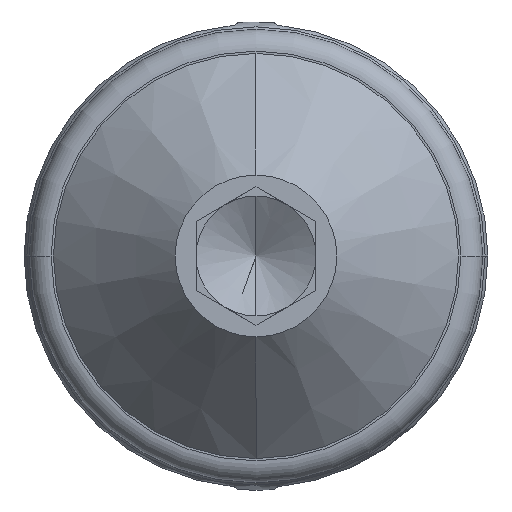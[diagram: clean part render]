
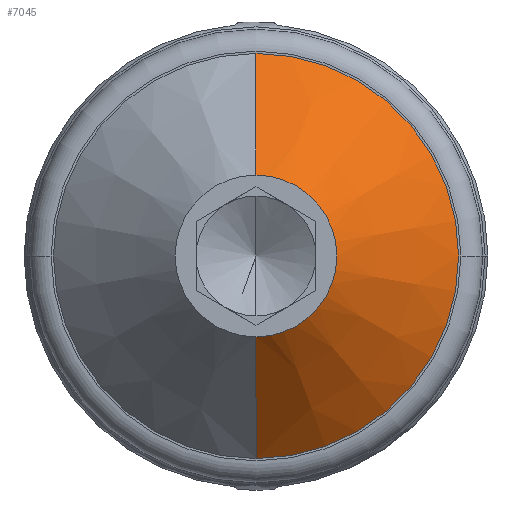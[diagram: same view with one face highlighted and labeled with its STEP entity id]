
A CAD part, front view. The second image highlights one B-rep face of the part: STEP entity #7045.
In plain terms, the highlighted conical face has half-angle 45 degrees and reference radius 13.845 mm.
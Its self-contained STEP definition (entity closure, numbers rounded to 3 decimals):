
#159 = CARTESIAN_POINT ( 'NONE',  ( 0., 0., 5.527 ) ) ;
#446 = DIRECTION ( 'NONE',  ( 0., 0.707, 0.707 ) ) ;
#725 = AXIS2_PLACEMENT_3D ( 'NONE', #1727, #3099, #7289 ) ;
#728 = DIRECTION ( 'NONE',  ( 0., 0., 1. ) ) ;
#857 = CONICAL_SURFACE ( 'NONE', #6256, 13.845, 0.785 ) ;
#935 = LINE ( 'NONE', #3353, #9050 ) ;
#1299 = FACE_OUTER_BOUND ( 'NONE', #6125, .T. ) ;
#1576 = DIRECTION ( 'NONE',  ( 0., 0., 1. ) ) ;
#1652 = ORIENTED_EDGE ( 'NONE', *, *, #6098, .T. ) ;
#1727 = CARTESIAN_POINT ( 'NONE',  ( 0., 8.319, 0. ) ) ;
#2111 = CARTESIAN_POINT ( 'NONE',  ( 0., 0., -5.527 ) ) ;
#2172 = CARTESIAN_POINT ( 'NONE',  ( 0., 8.319, 0. ) ) ;
#2875 = CARTESIAN_POINT ( 'NONE',  ( 0., 8.319, 13.845 ) ) ;
#3099 = DIRECTION ( 'NONE',  ( 0., 1., 0. ) ) ;
#3353 = CARTESIAN_POINT ( 'NONE',  ( 0., 8.319, 13.845 ) ) ;
#3404 = EDGE_CURVE ( 'NONE', #7860, #7866, #4881, .T. ) ;
#3726 = VERTEX_POINT ( 'NONE', #159 ) ;
#4115 = EDGE_CURVE ( 'NONE', #3726, #7860, #935, .T. ) ;
#4198 = VERTEX_POINT ( 'NONE', #2111 ) ;
#4371 = CIRCLE ( 'NONE', #5259, 5.527 ) ;
#4881 = CIRCLE ( 'NONE', #725, 13.845 ) ;
#4928 = ORIENTED_EDGE ( 'NONE', *, *, #4115, .F. ) ;
#5259 = AXIS2_PLACEMENT_3D ( 'NONE', #7817, #5648, #728 ) ;
#5509 = VECTOR ( 'NONE', #6750, 1000. ) ;
#5648 = DIRECTION ( 'NONE',  ( 0., 1., 0. ) ) ;
#6098 = EDGE_CURVE ( 'NONE', #4198, #7866, #8823, .T. ) ;
#6125 = EDGE_LOOP ( 'NONE', ( #6495, #1652, #7107, #4928 ) ) ;
#6212 = EDGE_CURVE ( 'NONE', #3726, #4198, #4371, .T. ) ;
#6256 = AXIS2_PLACEMENT_3D ( 'NONE', #2172, #7101, #1576 ) ;
#6495 = ORIENTED_EDGE ( 'NONE', *, *, #6212, .T. ) ;
#6750 = DIRECTION ( 'NONE',  ( 0., 0.707, -0.707 ) ) ;
#7045 = ADVANCED_FACE ( 'NONE', ( #1299 ), #857, .T. ) ;
#7101 = DIRECTION ( 'NONE',  ( 0., 1., 0. ) ) ;
#7107 = ORIENTED_EDGE ( 'NONE', *, *, #3404, .F. ) ;
#7289 = DIRECTION ( 'NONE',  ( 0., 0., 1. ) ) ;
#7817 = CARTESIAN_POINT ( 'NONE',  ( 0., 0., 0. ) ) ;
#7860 = VERTEX_POINT ( 'NONE', #2875 ) ;
#7866 = VERTEX_POINT ( 'NONE', #8468 ) ;
#8468 = CARTESIAN_POINT ( 'NONE',  ( 0., 8.319, -13.845 ) ) ;
#8823 = LINE ( 'NONE', #8921, #5509 ) ;
#8921 = CARTESIAN_POINT ( 'NONE',  ( 0., 8.319, -13.845 ) ) ;
#9050 = VECTOR ( 'NONE', #446, 1000. ) ;
